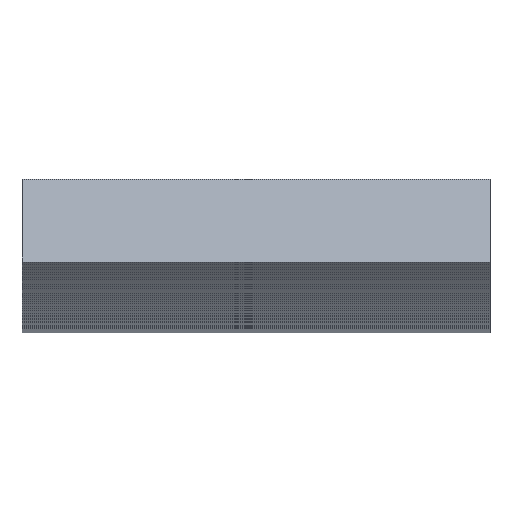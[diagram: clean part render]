
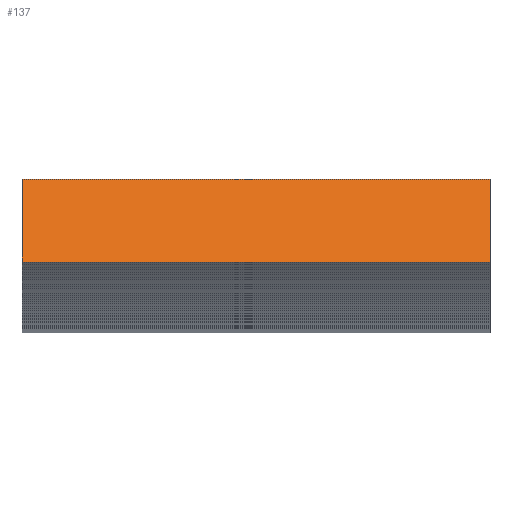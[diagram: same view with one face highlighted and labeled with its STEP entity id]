
A CAD part, front view. The second image highlights one B-rep face of the part: STEP entity #137.
In plain terms, the highlighted planar face has unit normal (0, -0.913, 0.407).
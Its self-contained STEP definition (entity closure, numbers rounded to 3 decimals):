
#21 = EDGE_CURVE('',#22,#24,#26,.T.);
#22 = VERTEX_POINT('',#23);
#23 = CARTESIAN_POINT('',(-62.,-100.057,-224.732));
#24 = VERTEX_POINT('',#25);
#25 = CARTESIAN_POINT('',(62.,-100.057,-224.732));
#26 = SURFACE_CURVE('',#27,(#31,#43),.PCURVE_S1.);
#27 = LINE('',#28,#29);
#28 = CARTESIAN_POINT('',(-62.,-100.057,-224.732));
#29 = VECTOR('',#30,1.);
#30 = DIRECTION('',(1.,0.,0.));
#31 = PCURVE('',#32,#37);
#32 = PLANE('',#33);
#33 = AXIS2_PLACEMENT_3D('',#34,#35,#36);
#34 = CARTESIAN_POINT('',(-62.,-100.057,-224.732));
#35 = DIRECTION('',(-0.,0.404,0.915));
#36 = DIRECTION('',(0.,0.915,-0.404));
#37 = DEFINITIONAL_REPRESENTATION('',(#38),#42);
#38 = LINE('',#39,#40);
#39 = CARTESIAN_POINT('',(0.,0.));
#40 = VECTOR('',#41,1.);
#41 = DIRECTION('',(0.,-1.));
#42 = ( GEOMETRIC_REPRESENTATION_CONTEXT(2) 
PARAMETRIC_REPRESENTATION_CONTEXT() REPRESENTATION_CONTEXT('2D SPACE',''
  ) );
#43 = PCURVE('',#44,#49);
#44 = PLANE('',#45);
#45 = AXIS2_PLACEMENT_3D('',#46,#47,#48);
#46 = CARTESIAN_POINT('',(-62.,-90.296,-202.807));
#47 = DIRECTION('',(0.,0.914,-0.407));
#48 = DIRECTION('',(0.,-0.407,-0.914));
#49 = DEFINITIONAL_REPRESENTATION('',(#50),#54);
#50 = LINE('',#51,#52);
#51 = CARTESIAN_POINT('',(24.,0.));
#52 = VECTOR('',#53,1.);
#53 = DIRECTION('',(0.,-1.));
#54 = ( GEOMETRIC_REPRESENTATION_CONTEXT(2) 
PARAMETRIC_REPRESENTATION_CONTEXT() REPRESENTATION_CONTEXT('2D SPACE',''
  ) );
#72 = PLANE('',#73);
#73 = AXIS2_PLACEMENT_3D('',#74,#75,#76);
#74 = CARTESIAN_POINT('',(62.,-64.798,-224.131));
#75 = DIRECTION('',(1.,0.,0.));
#76 = DIRECTION('',(-0.,0.,1.));
#126 = PLANE('',#127);
#127 = AXIS2_PLACEMENT_3D('',#128,#129,#130);
#128 = CARTESIAN_POINT('',(-62.,-64.798,-224.131));
#129 = DIRECTION('',(1.,0.,0.));
#130 = DIRECTION('',(-0.,0.,1.));
#137 = ADVANCED_FACE('',(#138),#44,.F.);
#138 = FACE_BOUND('',#139,.F.);
#139 = EDGE_LOOP('',(#140,#170,#191,#192));
#140 = ORIENTED_EDGE('',*,*,#141,.T.);
#141 = EDGE_CURVE('',#142,#144,#146,.T.);
#142 = VERTEX_POINT('',#143);
#143 = CARTESIAN_POINT('',(-62.,-90.296,-202.807));
#144 = VERTEX_POINT('',#145);
#145 = CARTESIAN_POINT('',(62.,-90.296,-202.807));
#146 = SURFACE_CURVE('',#147,(#151,#158),.PCURVE_S1.);
#147 = LINE('',#148,#149);
#148 = CARTESIAN_POINT('',(-62.,-90.296,-202.807));
#149 = VECTOR('',#150,1.);
#150 = DIRECTION('',(1.,0.,0.));
#151 = PCURVE('',#44,#152);
#152 = DEFINITIONAL_REPRESENTATION('',(#153),#157);
#153 = LINE('',#154,#155);
#154 = CARTESIAN_POINT('',(0.,0.));
#155 = VECTOR('',#156,1.);
#156 = DIRECTION('',(0.,-1.));
#157 = ( GEOMETRIC_REPRESENTATION_CONTEXT(2) 
PARAMETRIC_REPRESENTATION_CONTEXT() REPRESENTATION_CONTEXT('2D SPACE',''
  ) );
#158 = PCURVE('',#159,#164);
#159 = PLANE('',#160);
#160 = AXIS2_PLACEMENT_3D('',#161,#162,#163);
#161 = CARTESIAN_POINT('',(-62.,-88.864,-203.438));
#162 = DIRECTION('',(0.,-0.404,-0.915));
#163 = DIRECTION('',(0.,-0.915,0.404));
#164 = DEFINITIONAL_REPRESENTATION('',(#165),#169);
#165 = LINE('',#166,#167);
#166 = CARTESIAN_POINT('',(1.565,0.));
#167 = VECTOR('',#168,1.);
#168 = DIRECTION('',(0.,-1.));
#169 = ( GEOMETRIC_REPRESENTATION_CONTEXT(2) 
PARAMETRIC_REPRESENTATION_CONTEXT() REPRESENTATION_CONTEXT('2D SPACE',''
  ) );
#170 = ORIENTED_EDGE('',*,*,#171,.T.);
#171 = EDGE_CURVE('',#144,#24,#172,.T.);
#172 = SURFACE_CURVE('',#173,(#177,#184),.PCURVE_S1.);
#173 = LINE('',#174,#175);
#174 = CARTESIAN_POINT('',(62.,-90.296,-202.807));
#175 = VECTOR('',#176,1.);
#176 = DIRECTION('',(0.,-0.407,-0.914));
#177 = PCURVE('',#44,#178);
#178 = DEFINITIONAL_REPRESENTATION('',(#179),#183);
#179 = LINE('',#180,#181);
#180 = CARTESIAN_POINT('',(0.,-124.));
#181 = VECTOR('',#182,1.);
#182 = DIRECTION('',(1.,0.));
#183 = ( GEOMETRIC_REPRESENTATION_CONTEXT(2) 
PARAMETRIC_REPRESENTATION_CONTEXT() REPRESENTATION_CONTEXT('2D SPACE',''
  ) );
#184 = PCURVE('',#72,#185);
#185 = DEFINITIONAL_REPRESENTATION('',(#186),#190);
#186 = LINE('',#187,#188);
#187 = CARTESIAN_POINT('',(21.324,25.497));
#188 = VECTOR('',#189,1.);
#189 = DIRECTION('',(-0.914,0.407));
#190 = ( GEOMETRIC_REPRESENTATION_CONTEXT(2) 
PARAMETRIC_REPRESENTATION_CONTEXT() REPRESENTATION_CONTEXT('2D SPACE',''
  ) );
#191 = ORIENTED_EDGE('',*,*,#21,.F.);
#192 = ORIENTED_EDGE('',*,*,#193,.F.);
#193 = EDGE_CURVE('',#142,#22,#194,.T.);
#194 = SURFACE_CURVE('',#195,(#199,#206),.PCURVE_S1.);
#195 = LINE('',#196,#197);
#196 = CARTESIAN_POINT('',(-62.,-90.296,-202.807));
#197 = VECTOR('',#198,1.);
#198 = DIRECTION('',(0.,-0.407,-0.914));
#199 = PCURVE('',#44,#200);
#200 = DEFINITIONAL_REPRESENTATION('',(#201),#205);
#201 = LINE('',#202,#203);
#202 = CARTESIAN_POINT('',(0.,0.));
#203 = VECTOR('',#204,1.);
#204 = DIRECTION('',(1.,0.));
#205 = ( GEOMETRIC_REPRESENTATION_CONTEXT(2) 
PARAMETRIC_REPRESENTATION_CONTEXT() REPRESENTATION_CONTEXT('2D SPACE',''
  ) );
#206 = PCURVE('',#126,#207);
#207 = DEFINITIONAL_REPRESENTATION('',(#208),#212);
#208 = LINE('',#209,#210);
#209 = CARTESIAN_POINT('',(21.324,25.497));
#210 = VECTOR('',#211,1.);
#211 = DIRECTION('',(-0.914,0.407));
#212 = ( GEOMETRIC_REPRESENTATION_CONTEXT(2) 
PARAMETRIC_REPRESENTATION_CONTEXT() REPRESENTATION_CONTEXT('2D SPACE',''
  ) );
